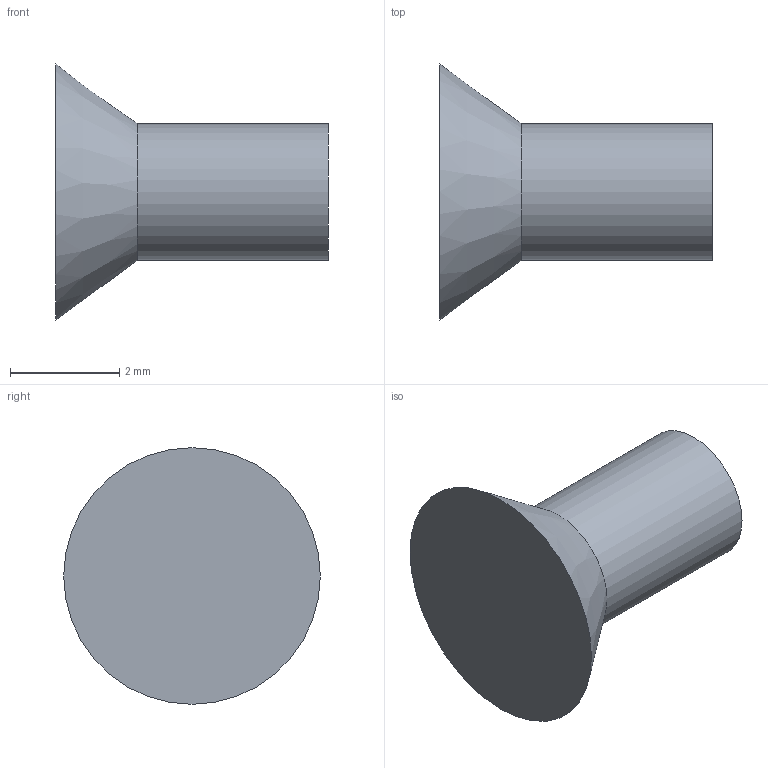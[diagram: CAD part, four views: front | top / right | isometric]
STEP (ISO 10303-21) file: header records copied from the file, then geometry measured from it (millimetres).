
FILE_DESCRIPTION(('Open CASCADE Model'),'2;1');
FILE_NAME('Open CASCADE Shape Model','2026-11-23T18:10:16',('Author'),( 'Open CASCADE'),'Open CASCADE STEP processor 8.0','build123d', 'Unknown');
FILE_SCHEMA(('AUTOMOTIVE_DESIGN { 1 0 10303 214 1 1 1 1 }'));
Length unit declared in the file: millimetre
Products named in the file (2): =>[0:1:1:2]; COMPOUND
Assembly tree (1 placements, depth 2):
  =>[0:1:1:2]
    COMPOUND
Bounding box: 5 x 4.7 x 4.7 mm (x, y, z)
Volume: 32.9 mm3; surface area: 70.8 mm2
Topology: 1 solids, 1 shells, 4 faces, 5 edges, 3 vertices
Faces by surface type: plane 2, cone 1, cylinder 1
Full cylindrical faces by diameter (mm): 2.5 x1
Entity records: 176 total; most frequent: DIRECTION 29, CARTESIAN_POINT 25, ORIENTED_EDGE 10, PCURVE 10, DEFINITIONAL_REPRESENTATION 10, AXIS2_PLACEMENT_3D 9, LINE 9, VECTOR 9
